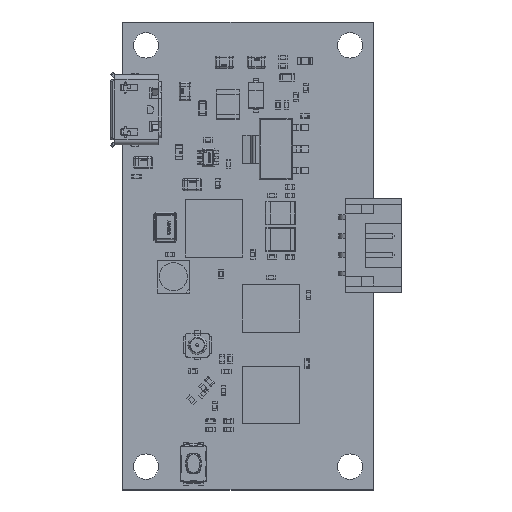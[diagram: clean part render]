
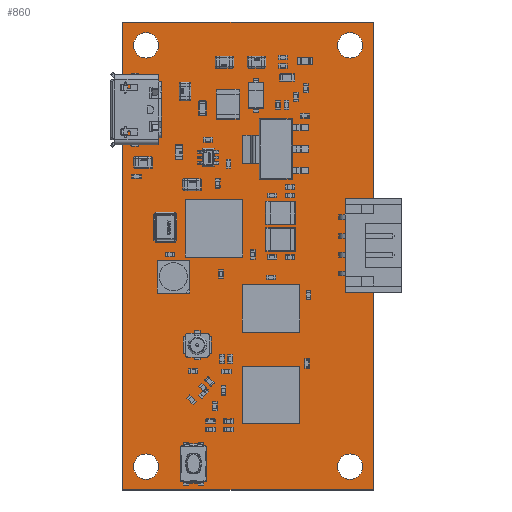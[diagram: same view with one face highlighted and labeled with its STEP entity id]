
A CAD part, top view. The second image highlights one B-rep face of the part: STEP entity #860.
In plain terms, the highlighted planar face has unit normal (0, 0, 1).
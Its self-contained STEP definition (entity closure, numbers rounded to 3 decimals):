
#587 = VERTEX_POINT('',#588);
#588 = CARTESIAN_POINT('',(0.,0.,1.598));
#594 = EDGE_CURVE('',#587,#595,#597,.T.);
#595 = VERTEX_POINT('',#596);
#596 = CARTESIAN_POINT('',(26.8,0.,1.598));
#597 = LINE('',#598,#599);
#598 = CARTESIAN_POINT('',(0.,0.,1.598));
#599 = VECTOR('',#600,1.);
#600 = DIRECTION('',(1.,0.,0.));
#625 = EDGE_CURVE('',#595,#626,#628,.T.);
#626 = VERTEX_POINT('',#627);
#627 = CARTESIAN_POINT('',(26.8,50.,1.598));
#628 = LINE('',#629,#630);
#629 = CARTESIAN_POINT('',(26.8,0.,1.598));
#630 = VECTOR('',#631,1.);
#631 = DIRECTION('',(0.,1.,0.));
#656 = EDGE_CURVE('',#626,#657,#659,.T.);
#657 = VERTEX_POINT('',#658);
#658 = CARTESIAN_POINT('',(0.,50.,1.598));
#659 = LINE('',#660,#661);
#660 = CARTESIAN_POINT('',(26.8,50.,1.598));
#661 = VECTOR('',#662,1.);
#662 = DIRECTION('',(-1.,0.,0.));
#687 = EDGE_CURVE('',#657,#587,#688,.T.);
#688 = LINE('',#689,#690);
#689 = CARTESIAN_POINT('',(0.,50.,1.598));
#690 = VECTOR('',#691,1.);
#691 = DIRECTION('',(0.,-1.,0.));
#711 = VERTEX_POINT('',#712);
#712 = CARTESIAN_POINT('',(3.85,2.5,1.598));
#718 = EDGE_CURVE('',#711,#711,#719,.T.);
#719 = CIRCLE('',#720,1.35);
#720 = AXIS2_PLACEMENT_3D('',#721,#722,#723);
#721 = CARTESIAN_POINT('',(2.5,2.5,1.598));
#722 = DIRECTION('',(0.,0.,1.));
#723 = DIRECTION('',(1.,0.,0.));
#744 = VERTEX_POINT('',#745);
#745 = CARTESIAN_POINT('',(3.85,47.5,1.598));
#751 = EDGE_CURVE('',#744,#744,#752,.T.);
#752 = CIRCLE('',#753,1.35);
#753 = AXIS2_PLACEMENT_3D('',#754,#755,#756);
#754 = CARTESIAN_POINT('',(2.5,47.5,1.598));
#755 = DIRECTION('',(0.,0.,1.));
#756 = DIRECTION('',(1.,0.,0.));
#777 = VERTEX_POINT('',#778);
#778 = CARTESIAN_POINT('',(25.65,2.5,1.598));
#784 = EDGE_CURVE('',#777,#777,#785,.T.);
#785 = CIRCLE('',#786,1.35);
#786 = AXIS2_PLACEMENT_3D('',#787,#788,#789);
#787 = CARTESIAN_POINT('',(24.3,2.5,1.598));
#788 = DIRECTION('',(0.,0.,1.));
#789 = DIRECTION('',(1.,0.,0.));
#810 = VERTEX_POINT('',#811);
#811 = CARTESIAN_POINT('',(25.65,47.5,1.598));
#817 = EDGE_CURVE('',#810,#810,#818,.T.);
#818 = CIRCLE('',#819,1.35);
#819 = AXIS2_PLACEMENT_3D('',#820,#821,#822);
#820 = CARTESIAN_POINT('',(24.3,47.5,1.598));
#821 = DIRECTION('',(0.,0.,1.));
#822 = DIRECTION('',(1.,0.,0.));
#860 = ADVANCED_FACE('',(#861,#867,#870,#873,#876),#879,.F.);
#861 = FACE_BOUND('',#862,.T.);
#862 = EDGE_LOOP('',(#863,#864,#865,#866));
#863 = ORIENTED_EDGE('',*,*,#594,.T.);
#864 = ORIENTED_EDGE('',*,*,#625,.T.);
#865 = ORIENTED_EDGE('',*,*,#656,.T.);
#866 = ORIENTED_EDGE('',*,*,#687,.T.);
#867 = FACE_BOUND('',#868,.F.);
#868 = EDGE_LOOP('',(#869));
#869 = ORIENTED_EDGE('',*,*,#718,.T.);
#870 = FACE_BOUND('',#871,.F.);
#871 = EDGE_LOOP('',(#872));
#872 = ORIENTED_EDGE('',*,*,#751,.T.);
#873 = FACE_BOUND('',#874,.F.);
#874 = EDGE_LOOP('',(#875));
#875 = ORIENTED_EDGE('',*,*,#784,.T.);
#876 = FACE_BOUND('',#877,.F.);
#877 = EDGE_LOOP('',(#878));
#878 = ORIENTED_EDGE('',*,*,#817,.T.);
#879 = PLANE('',#880);
#880 = AXIS2_PLACEMENT_3D('',#881,#882,#883);
#881 = CARTESIAN_POINT('',(0.,0.,1.598));
#882 = DIRECTION('',(0.,0.,-1.));
#883 = DIRECTION('',(-1.,0.,0.));
